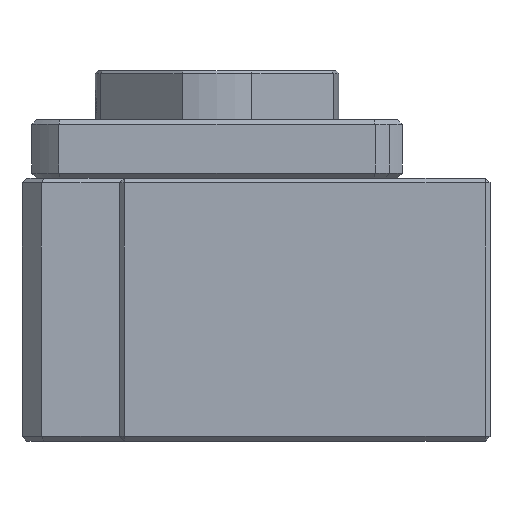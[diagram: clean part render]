
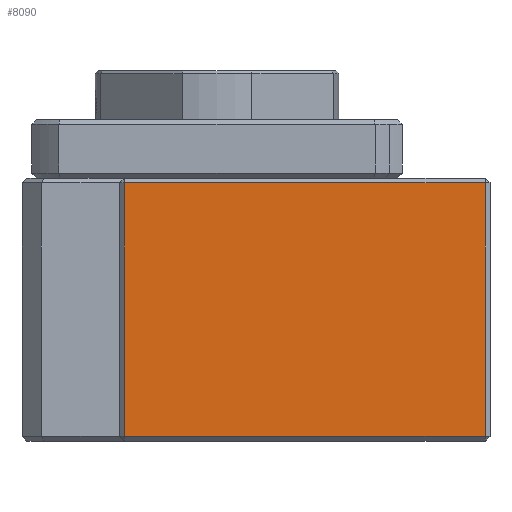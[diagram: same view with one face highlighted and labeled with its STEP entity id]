
A CAD part, left-side view. The second image highlights one B-rep face of the part: STEP entity #8090.
In plain terms, the highlighted planar face has unit normal (-1, 0, 0).
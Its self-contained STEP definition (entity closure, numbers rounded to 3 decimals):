
#249 = PLANE ( 'NONE',  #1392 ) ;
#250 = CARTESIAN_POINT ( 'NONE',  ( -35., 10., 13.5 ) ) ;
#251 = DIRECTION ( 'NONE',  ( 1., 0., 0. ) ) ;
#252 = DIRECTION ( 'NONE',  ( 0., 1., 0. ) ) ;
#725 = CARTESIAN_POINT ( 'NONE',  ( -35., 9.5, 13. ) ) ;
#726 = CARTESIAN_POINT ( 'NONE',  ( -35., 9.5, -13. ) ) ;
#727 = CARTESIAN_POINT ( 'NONE',  ( -35., -27.5, -13. ) ) ;
#728 = CARTESIAN_POINT ( 'NONE',  ( -35., -27.5, 13. ) ) ;
#1106 = LINE ( 'NONE', #1107, #1477 ) ;
#1107 = CARTESIAN_POINT ( 'NONE',  ( -35., 10., -13. ) ) ;
#1108 = DIRECTION ( 'NONE',  ( 0., -1., 0. ) ) ;
#1389 = FACE_OUTER_BOUND ( 'NONE', #5582, .T. ) ;
#1392 = AXIS2_PLACEMENT_3D ( 'NONE', #250, #251, #252 ) ;
#1477 = VECTOR ( 'NONE', #1108, 1000. ) ;
#4173 = LINE ( 'NONE', #4174, #14234 ) ;
#4174 = CARTESIAN_POINT ( 'NONE',  ( -35., 10., 13. ) ) ;
#4175 = DIRECTION ( 'NONE',  ( 0., 1., 0. ) ) ;
#4665 = LINE ( 'NONE', #4666, #13151 ) ;
#4666 = CARTESIAN_POINT ( 'NONE',  ( -35., 9.5, 13.5 ) ) ;
#4667 = DIRECTION ( 'NONE',  ( 0., 0., -1. ) ) ;
#4716 = LINE ( 'NONE', #4717, #13167 ) ;
#4717 = CARTESIAN_POINT ( 'NONE',  ( -35., -27.5, 13.5 ) ) ;
#4718 = DIRECTION ( 'NONE',  ( 0., 0., 1. ) ) ;
#5582 = EDGE_LOOP ( 'NONE', ( #8895, #8898, #8897, #8899 ) ) ;
#8090 = ADVANCED_FACE ( 'NONE', ( #1389 ), #249, .F. ) ;
#8895 = ORIENTED_EDGE ( 'NONE', *, *, #13706, .T. ) ;
#8897 = ORIENTED_EDGE ( 'NONE', *, *, #13717, .T. ) ;
#8898 = ORIENTED_EDGE ( 'NONE', *, *, #13289, .T. ) ;
#8899 = ORIENTED_EDGE ( 'NONE', *, *, #13613, .T. ) ;
#11178 = VERTEX_POINT ( 'NONE', #725 ) ;
#11179 = VERTEX_POINT ( 'NONE', #726 ) ;
#11180 = VERTEX_POINT ( 'NONE', #727 ) ;
#11181 = VERTEX_POINT ( 'NONE', #728 ) ;
#13151 = VECTOR ( 'NONE', #4667, 1000. ) ;
#13167 = VECTOR ( 'NONE', #4718, 1000. ) ;
#13289 = EDGE_CURVE ( 'NONE', #11179, #11180, #1106, .T. ) ;
#13613 = EDGE_CURVE ( 'NONE', #11181, #11178, #4173, .T. ) ;
#13706 = EDGE_CURVE ( 'NONE', #11178, #11179, #4665, .T. ) ;
#13717 = EDGE_CURVE ( 'NONE', #11180, #11181, #4716, .T. ) ;
#14234 = VECTOR ( 'NONE', #4175, 1000. ) ;
